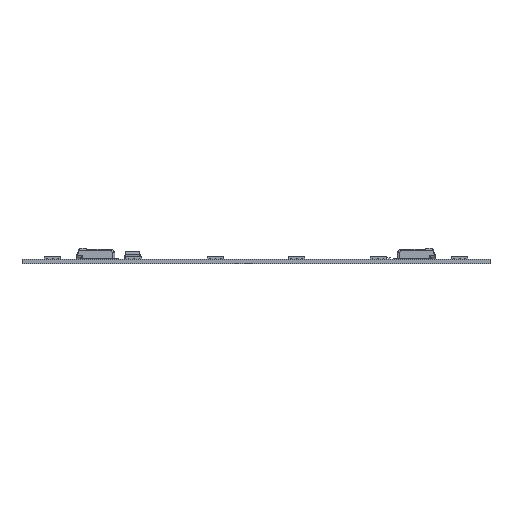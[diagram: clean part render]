
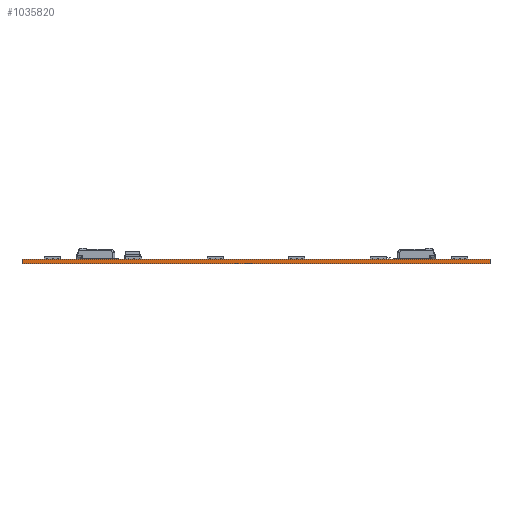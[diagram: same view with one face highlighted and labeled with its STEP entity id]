
A CAD part, front view. The second image highlights one B-rep face of the part: STEP entity #1035820.
In plain terms, the highlighted planar face has unit normal (0, -1, 0).
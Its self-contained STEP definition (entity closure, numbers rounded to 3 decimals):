
#1028980=CARTESIAN_POINT('',(146.,0.,0.));
#1028990=VERTEX_POINT('',#1028980);
#1029020=CARTESIAN_POINT('',(0.,0.,0.));
#1029030=DIRECTION('',(1.,0.,0.));
#1029040=VECTOR('',#1029030,0.039);
#1029050=LINE('',#1029020,#1029040);
#1029060=CARTESIAN_POINT('',(0.,0.,0.));
#1029070=VERTEX_POINT('',#1029060);
#1029080=EDGE_CURVE('',#1029070,#1028990,#1029050,.T.);
#1031720=CARTESIAN_POINT('',(0.,0.,-1.5));
#1031730=VERTEX_POINT('',#1031720);
#1031760=CARTESIAN_POINT('',(0.,0.,-1.5));
#1031770=DIRECTION('',(1.,0.,0.));
#1031780=VECTOR('',#1031770,0.039);
#1031790=LINE('',#1031760,#1031780);
#1031800=CARTESIAN_POINT('',(146.,0.,-1.5));
#1031810=VERTEX_POINT('',#1031800);
#1031820=EDGE_CURVE('',#1031730,#1031810,#1031790,.T.);
#1035480=CARTESIAN_POINT('',(0.,0.,0.));
#1035490=DIRECTION('',(0.,0.,-1.));
#1035500=VECTOR('',#1035490,1.);
#1035510=LINE('',#1035480,#1035500);
#1035520=EDGE_CURVE('',#1029070,#1031730,#1035510,.T.);
#1035660=CARTESIAN_POINT('',(146.,0.,0.));
#1035670=DIRECTION('',(-0.,1.,0.));
#1035680=DIRECTION('',(1.,0.,0.));
#1035690=AXIS2_PLACEMENT_3D('',#1035660,#1035670,#1035680);
#1035700=PLANE('',#1035690);
#1035710=ORIENTED_EDGE('',*,*,#1029080,.F.);
#1035720=CARTESIAN_POINT('',(146.,0.,0.));
#1035730=DIRECTION('',(0.,0.,-1.));
#1035740=VECTOR('',#1035730,1.);
#1035750=LINE('',#1035720,#1035740);
#1035760=EDGE_CURVE('',#1028990,#1031810,#1035750,.T.);
#1035770=ORIENTED_EDGE('',*,*,#1035760,.F.);
#1035780=ORIENTED_EDGE('',*,*,#1031820,.T.);
#1035790=ORIENTED_EDGE('',*,*,#1035520,.T.);
#1035800=EDGE_LOOP('',(#1035790,#1035780,#1035770,#1035710));
#1035810=FACE_OUTER_BOUND('',#1035800,.T.);
#1035820=ADVANCED_FACE('',(#1035810),#1035700,.F.);
